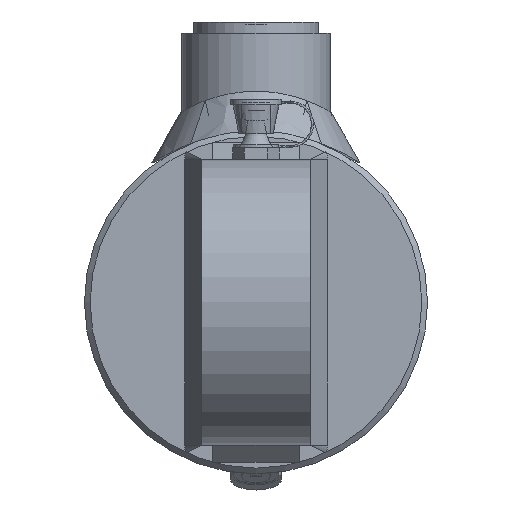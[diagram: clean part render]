
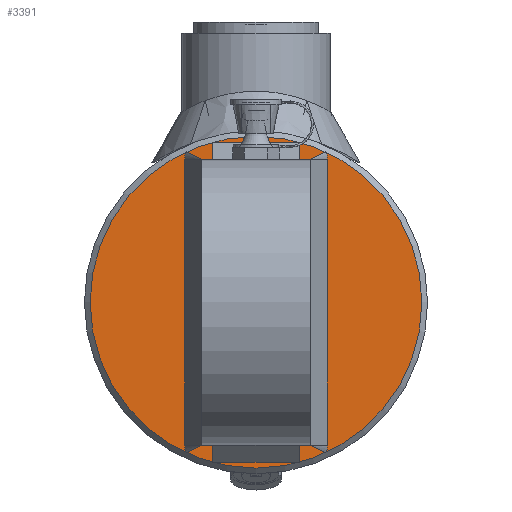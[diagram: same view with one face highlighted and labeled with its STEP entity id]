
A CAD part, left-side view. The second image highlights one B-rep face of the part: STEP entity #3391.
In plain terms, the highlighted planar face has unit normal (-1, 0, 0).
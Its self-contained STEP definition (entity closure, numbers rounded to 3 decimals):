
#3391 = ADVANCED_FACE( '', ( #7909 ), #7910, .T. );
#7909 = FACE_OUTER_BOUND( '', #10071, .T. );
#7910 = PLANE( '', #10072 );
#10071 = EDGE_LOOP( '', ( #11024 ) );
#10072 = AXIS2_PLACEMENT_3D( '', #11025, #11026, #11027 );
#11024 = ORIENTED_EDGE( '', *, *, #12417, .T. );
#11025 = CARTESIAN_POINT( '', ( -10., 0., 0. ) );
#11026 = DIRECTION( '', ( -1., 0., 0. ) );
#11027 = DIRECTION( '', ( 0., -1., 0. ) );
#12417 = EDGE_CURVE( '', #15165, #15165, #15166, .T. );
#15165 = VERTEX_POINT( '', #16077 );
#15166 = CIRCLE( '', #16078, 29. );
#16077 = CARTESIAN_POINT( '', ( -10., -29., 0. ) );
#16078 = AXIS2_PLACEMENT_3D( '', #16391, #16392, #16393 );
#16391 = CARTESIAN_POINT( '', ( -10., 0., 0. ) );
#16392 = DIRECTION( '', ( -1., 0., 0. ) );
#16393 = DIRECTION( '', ( 0., -1., 0. ) );
